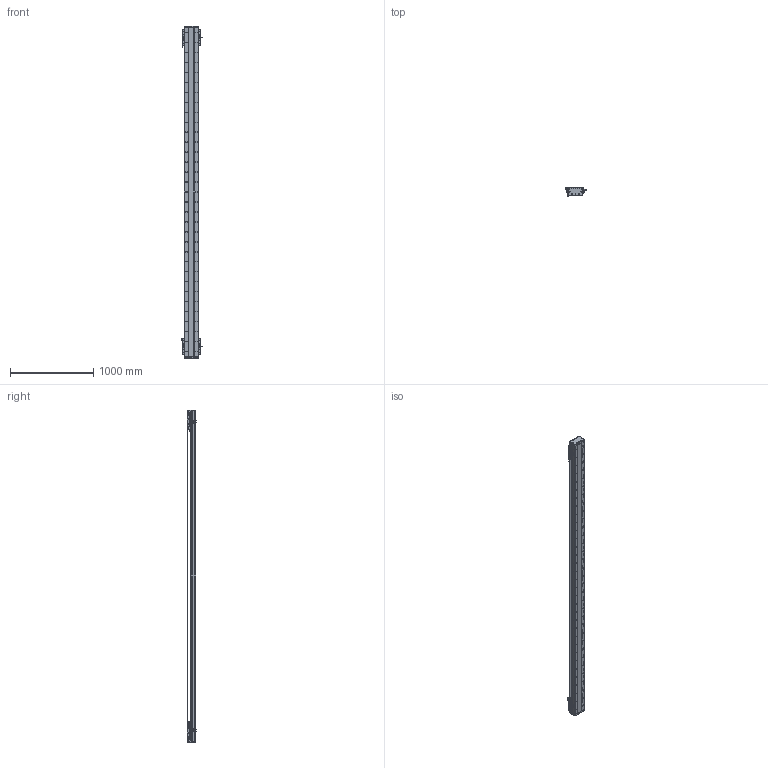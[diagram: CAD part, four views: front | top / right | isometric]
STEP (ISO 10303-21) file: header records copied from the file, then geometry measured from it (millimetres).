
FILE_DESCRIPTION (( 'STEP AP203' ), '1' );
FILE_NAME ('DA-C165-2-C2-T3500-C010-0.2 直线电机.STEP', '2023-05-11T08:37:33', ( '微软用户' ), ( '微软中国' ), 'SwSTEP 2.0', 'SolidWorks 2019', '' );
FILE_SCHEMA (( 'CONFIG_CONTROL_DESIGN' ));
Length unit declared in the file: millimetre
Products named in the file (22): 复件 DA126-GYP-ZJ-00 中间光电感应片^DA-C165-C2-T-C010-0.2-N 直线电机; 复件 DA95-HXJ-00 缓冲橡胶^DA-C165-C2-T-C010-0.2-N 直线电机; 珨极趙賑雄怢啣wf-C2; 复件 DA165-GD-1860-002-00 钢带盖板^复件 CU165钢带组件_DA-C165-C2-T-C010-0.2-N 直线电机; 葩璃 PM-T45^DA-C165-C2-T-C010-0.2-N 眻盄萇儂; DA-C165-2-C2-T3500-C010-0.2 眻盄萇儂; 复件 DA165-GYP-00 光电感应片^DA-C165-C2-T-C010-0.2-N 直线电机; IU-CU165-L 菁釱絳寢; 复件 DA165-GDLK-00 钢带拉块^复件 CU165钢带组件_DA-C165-C2-T-C010-0.2-N 直线电机; 葩璃 CKM01-W075-TRL^DA-C165-C2-T-C010-0.2-N 眻盄萇儂; 复件 DKW-HXJ-JY-00 缓冲橡胶^DA-C165-C2-T-C010-0.2-N 直线电机; 葩璃 PM-Y45^DA-C165-C2-T-C010-0.2-N 眻盄萇儂; 复件 DA165-GDYK-00 钢带压块^复件 CU165钢带组件_DA-C165-C2-T-C010-0.2-N 直线电机; 复件 66338-1000-006-00 光电感应块^DA-C165-C2-T-C010-0.2-N 直线电机; 葩璃 DA95-GT-T-00^IU-CU165-L 菁釱絳寢_T; 复件 XD-U-02L 磁栅尺^DA-C165-C2-T-C010-0.2-N 直线电机_T; 复件 CU165钢带组件^DA-C165-C2-T-C010-0.2-N 直线电机; IU-CU165-L-00 菁釱_L3960; 复件 DA165-GD-DG-H-00 端盖^复件 CU165钢带组件_DA-C165-C2-T-C010-0.2-N 直线电机; 复件 DMA-010-0.2 读数头^DA-C165-C2-T-C010-0.2-N 直线电机; 复件 CKM02-W075-C1C2-TP-3.0 一体电机-C2^DA-C165-C2-T-C010-0.2-N 直线电机; 复件 六角薄螺母 M3^DA-C165-C2-T-C010-0.2-N 直线电机_GB_FASTENER_NUT_STNAB M3-C
Assembly tree (43 placements, depth 3):
  DA-C165-2-C2-T3500-C010-0.2 眻盄萇儂
    IU-CU165-L 菁釱絳寢
      IU-CU165-L-00 菁釱_L3960
      葩璃 DA95-GT-T-00^IU-CU165-L 菁釱絳寢_T  x4
    复件 XD-U-02L 磁栅尺^DA-C165-C2-T-C010-0.2-N 直线电机_T
    葩璃 PM-T45^DA-C165-C2-T-C010-0.2-N 眻盄萇儂  x4
    葩璃 CKM01-W075-TRL^DA-C165-C2-T-C010-0.2-N 眻盄萇儂
    复件 CU165钢带组件^DA-C165-C2-T-C010-0.2-N 直线电机
      复件 DA165-GD-DG-H-00 端盖^复件 CU165钢带组件_DA-C165-C2-T-C010-0.2-N 直线电机  x2
      复件 DA165-GDYK-00 钢带压块^复件 CU165钢带组件_DA-C165-C2-T-C010-0.2-N 直线电机  x2
      复件 DA165-GD-1860-002-00 钢带盖板^复件 CU165钢带组件_DA-C165-C2-T-C010-0.2-N 直线电机
      复件 DA165-GDLK-00 钢带拉块^复件 CU165钢带组件_DA-C165-C2-T-C010-0.2-N 直线电机  x2
    复件 DA95-HXJ-00 缓冲橡胶^DA-C165-C2-T-C010-0.2-N 直线电机  x4
    复件 CKM02-W075-C1C2-TP-3.0 一体电机-C2^DA-C165-C2-T-C010-0.2-N 直线电机  x2
    复件 DMA-010-0.2 读数头^DA-C165-C2-T-C010-0.2-N 直线电机  x2
    复件 DA165-GYP-00 光电感应片^DA-C165-C2-T-C010-0.2-N 直线电机  x2
    复件 66338-1000-006-00 光电感应块^DA-C165-C2-T-C010-0.2-N 直线电机
    葩璃 PM-Y45^DA-C165-C2-T-C010-0.2-N 眻盄萇儂
    复件 DA126-GYP-ZJ-00 中间光电感应片^DA-C165-C2-T-C010-0.2-N 直线电机
    复件 DKW-HXJ-JY-00 缓冲橡胶^DA-C165-C2-T-C010-0.2-N 直线电机  x2
    复件 六角薄螺母 M3^DA-C165-C2-T-C010-0.2-N 直线电机_GB_FASTENER_NUT_STNAB M3-C  x6
    珨极趙賑雄怢啣wf-C2  x2
Bounding box: 247.2 x 111.45 x 4000 mm (x, y, z)
Volume: 22757960.6 mm3; surface area: 6810258.3 mm2
Topology: 119 solids, 119 shells, 6335 faces, 18440 edges, 11742 vertices
Faces by surface type: cylinder 3692, plane 1851, cone 704, torus 80, sphere 8
Entity records: 170320 total; most frequent: CARTESIAN_POINT 48641, ORIENTED_EDGE 25824, DIRECTION 24112, EDGE_CURVE 12912, AXIS2_PLACEMENT_3D 9234, VERTEX_POINT 8479, EDGE_LOOP 5799, LINE 5644
